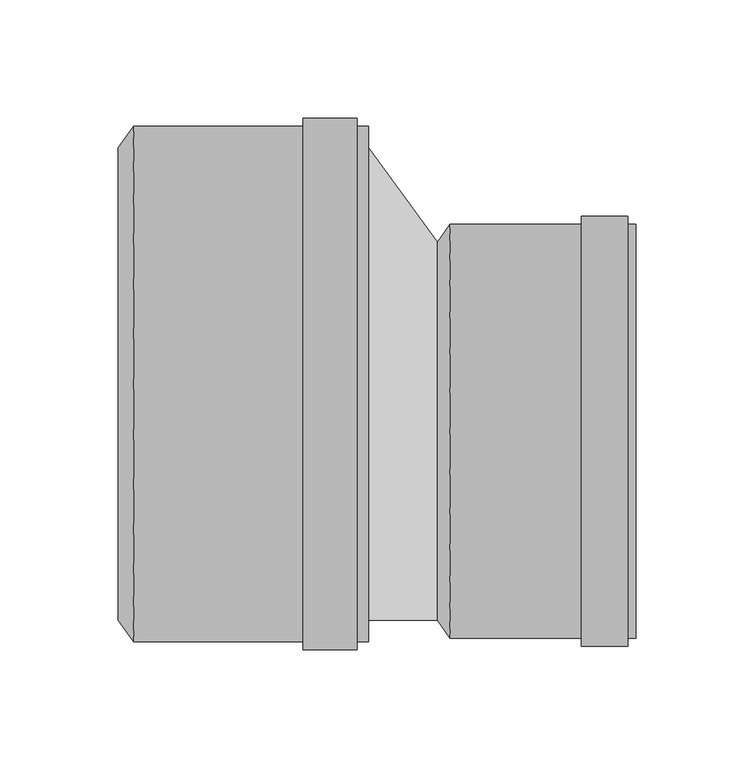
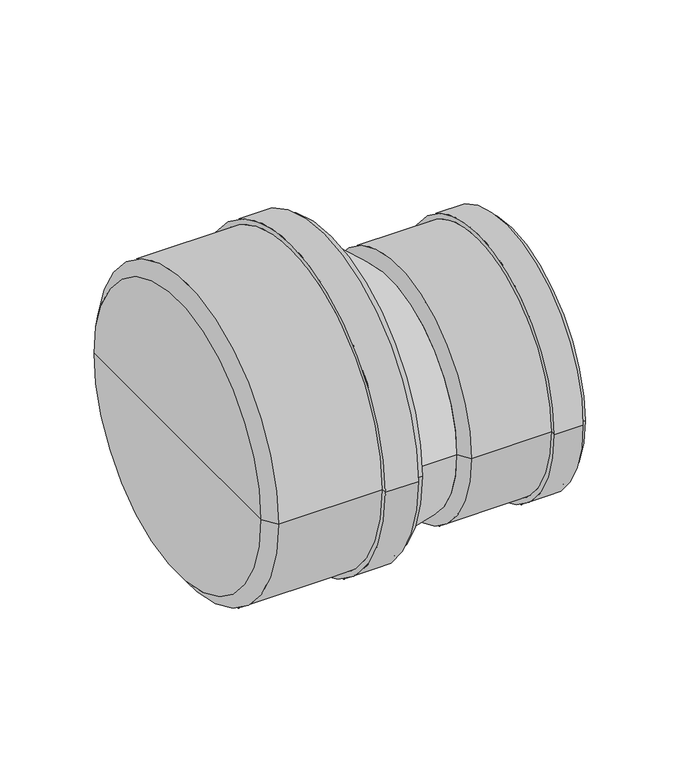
"""IFC4 building model written with IfcOpenShell, lengths in millimetres: pipe fitting geometry, pf_KGR_red-nes : pf_KGR_red-nes."""

from ifc_helpers import new_model, si_unit, frame, origin, place, context, project, spatial, polyline, circle_curve, source, transform, mapped, element, save
from ifc_brep_helpers import plane_surface, cylinder_surface, revolved_surface, spline_surface, advanced_brep


def pipe_fitting_8c594ed1(model_context):
    return source(origin(), model_context, "Body", "AdvancedBrep", [
        advanced_brep(
        [(-106.0, -100.0, 0.0), (-106.0, 100.0, 0.0), (-99.3, 109.1, 0.0), (-99.3, -109.1, 0.0), (-106.0, 0.0, 0.0), (0.0, -109.1, 0.0), (0.0, 109.1, 0.0), (0.0, 100.0, 0.0), (0.0, -100.0, 0.0), (-4.8, -109.1, 0.0), (-4.8, 109.1, 0.0), (-4.8, -112.5, 0.0), (-4.8, 112.5, 0.0), (-27.6, -112.5, 0.0), (-27.6, 112.5, 0.0), (-27.6, -109.1, 0.0), (-27.6, 109.1, 0.0), (-99.3, -100.0, 0.0), (-99.3, 100.0, 0.0), (-99.3, 0.0, 0.0)],
        [
            (0, 1, circle_curve(frame((-106.0, 0.0, 0.0), z_axis=(1.0, 0.0, 0.0), x_axis=(0.0, 1.0, 0.0)), 100.0)),
            (1, 2),
            (2, 3, circle_curve(frame((-99.3, 0.0, 0.0), z_axis=(-1.0, 0.0, 0.0), x_axis=(0.0, 1.0, 0.0)), 109.1)),
            (3, 0),
            (1, 0, circle_curve(frame((-106.0, 0.0, 0.0), z_axis=(1.0, 0.0, 0.0), x_axis=(0.0, 1.0, 0.0)), 100.0)),
            (3, 2, circle_curve(frame((-99.3, 0.0, 0.0), z_axis=(-1.0, 0.0, 0.0), x_axis=(0.0, 1.0, 0.0)), 109.1)),
            (4, 1),
            (0, 4),
            (5, 6, circle_curve(frame((0.0, 0.0, 0.0), z_axis=(1.0, 0.0, 0.0), x_axis=(0.0, 1.0, 0.0)), 109.1)),
            (6, 7),
            (7, 8, circle_curve(frame((0.0, 0.0, 0.0), z_axis=(-1.0, 0.0, 0.0), x_axis=(0.0, 1.0, 0.0)), 100.0)),
            (8, 5),
            (6, 5, circle_curve(frame((0.0, 0.0, 0.0), z_axis=(1.0, 0.0, 0.0), x_axis=(0.0, 1.0, 0.0)), 109.1)),
            (8, 7, circle_curve(frame((0.0, 0.0, 0.0), z_axis=(-1.0, 0.0, 0.0), x_axis=(0.0, 1.0, 0.0)), 100.0)),
            (9, 10, circle_curve(frame((-4.8, 0.0, 0.0), z_axis=(1.0, 0.0, 0.0), x_axis=(0.0, 1.0, 0.0)), 109.1)),
            (10, 6),
            (5, 9),
            (10, 9, circle_curve(frame((-4.8, 0.0, 0.0), z_axis=(1.0, 0.0, 0.0), x_axis=(0.0, 1.0, 0.0)), 109.1)),
            (11, 12, circle_curve(frame((-4.8, 0.0, 0.0), z_axis=(1.0, 0.0, 0.0), x_axis=(0.0, 1.0, 0.0)), 112.5)),
            (12, 10),
            (9, 11),
            (12, 11, circle_curve(frame((-4.8, 0.0, 0.0), z_axis=(1.0, 0.0, 0.0), x_axis=(0.0, 1.0, 0.0)), 112.5)),
            (13, 14, circle_curve(frame((-27.6, 0.0, 0.0), z_axis=(1.0, 0.0, 0.0), x_axis=(0.0, 1.0, 0.0)), 112.5)),
            (14, 12),
            (11, 13),
            (14, 13, circle_curve(frame((-27.6, 0.0, 0.0), z_axis=(1.0, 0.0, 0.0), x_axis=(0.0, 1.0, 0.0)), 112.5)),
            (15, 16, circle_curve(frame((-27.6, 0.0, 0.0), z_axis=(1.0, 0.0, 0.0), x_axis=(0.0, 1.0, 0.0)), 109.1)),
            (16, 14),
            (13, 15),
            (16, 15, circle_curve(frame((-27.6, 0.0, 0.0), z_axis=(1.0, 0.0, 0.0), x_axis=(0.0, 1.0, 0.0)), 109.1)),
            (2, 16),
            (15, 3),
            (17, 18, circle_curve(frame((-99.3, 0.0, 0.0), z_axis=(1.0, 0.0, 0.0), x_axis=(0.0, 1.0, 0.0)), 100.0)),
            (18, 19),
            (19, 17),
            (18, 17, circle_curve(frame((-99.3, 0.0, 0.0), z_axis=(1.0, 0.0, 0.0), x_axis=(0.0, 1.0, 0.0)), 100.0)),
            (7, 18),
            (17, 8),
        ],
        [
            revolved_surface(polyline([(-99.3, 109.1, 0.0), (-106.0, 100.0, 0.0)]), (-106.0, 0.0, 0.0), (-1.0, 0.0, 0.0)),
            plane_surface(frame((-106.0, 0.0, 0.0), z_axis=(-1.0, 0.0, 0.0), x_axis=(0.0, 1.0, 0.0))),
            plane_surface(frame((0.0, 0.0, 0.0), z_axis=(1.0, 0.0, 0.0), x_axis=(0.0, 1.0, 0.0))),
            cylinder_surface(frame((-106.0, 0.0, 0.0), z_axis=(-1.0, 0.0, 0.0), x_axis=(0.0, 1.0, 0.0)), 109.1),
            plane_surface(frame((-4.8, 0.0, 0.0), z_axis=(1.0, 0.0, 0.0), x_axis=(0.0, 1.0, 0.0))),
            cylinder_surface(frame((-106.0, 0.0, 0.0), z_axis=(-1.0, 0.0, 0.0), x_axis=(0.0, 1.0, 0.0)), 112.5),
            plane_surface(frame((-27.6, 0.0, 0.0), z_axis=(-1.0, 0.0, 0.0), x_axis=(0.0, 1.0, 0.0))),
            plane_surface(frame((-99.3, 0.0, 0.0), z_axis=(1.0, 0.0, 0.0), x_axis=(0.0, 1.0, 0.0))),
            revolved_surface(polyline([(-99.3, 100.0, 0.0), (0.0, 100.0, 0.0)]), (-106.0, 0.0, 0.0), (-1.0, 0.0, 0.0)),
        ],
        [
            (0, [[1, 2, 3, 4]]),
            (0, [[5, -4, 6, -2]]),
            (1, [[7, -1, 8]]),
            (1, [[-8, -5, -7]]),
            (2, [[9, 10, 11, 12]]),
            (2, [[13, -12, 14, -10]]),
            (3, [[15, 16, -9, 17]]),
            (3, [[18, -17, -13, -16]]),
            (4, [[19, 20, -15, 21]]),
            (4, [[22, -21, -18, -20]]),
            (5, [[23, 24, -19, 25]]),
            (5, [[26, -25, -22, -24]]),
            (6, [[27, 28, -23, 29]]),
            (6, [[30, -29, -26, -28]]),
            (3, [[-3, 31, -27, 32]]),
            (3, [[-6, -32, -30, -31]]),
            (7, [[33, 34, 35]]),
            (7, [[36, -35, -34]]),
            (8, [[-11, 37, -33, 38]]),
            (8, [[-14, -38, -36, -37]]),
        ],
    ),
        advanced_brep(
        [(29.25, -100.0, 0.0), (29.25, 60.0, 0.0), (34.65, 67.6, 0.0), (34.65, -107.6, 0.0), (29.25, -20.0, 0.0), (113.25, -107.6, 0.0), (113.25, 67.6, 0.0), (113.25, 60.0, 0.0), (113.25, -100.0, 0.0), (109.85, -107.6, 0.0), (109.85, 67.6, 0.0), (109.85, -111.0, 0.0), (109.85, 71.0, 0.0), (90.15, -111.0, 0.0), (90.15, 71.0, 0.0), (90.15, -107.6, 0.0), (90.15, 67.6, 0.0), (34.65, -100.0, 0.0), (34.65, 60.0, 0.0), (34.65, -20.0, 0.0)],
        [
            (0, 1, circle_curve(frame((29.25, -20.0, 0.0), z_axis=(1.0, 0.0, 0.0), x_axis=(0.0, 1.0, 0.0)), 80.0)),
            (1, 2),
            (2, 3, circle_curve(frame((34.65, -20.0, 0.0), z_axis=(-1.0, 0.0, 0.0), x_axis=(0.0, 1.0, 0.0)), 87.6)),
            (3, 0),
            (1, 0, circle_curve(frame((29.25, -20.0, 0.0), z_axis=(1.0, 0.0, 0.0), x_axis=(0.0, 1.0, 0.0)), 80.0)),
            (3, 2, circle_curve(frame((34.65, -20.0, 0.0), z_axis=(-1.0, 0.0, 0.0), x_axis=(0.0, 1.0, 0.0)), 87.6)),
            (4, 1),
            (0, 4),
            (5, 6, circle_curve(frame((113.25, -20.0, 0.0), z_axis=(1.0, 0.0, 0.0), x_axis=(0.0, 1.0, 0.0)), 87.6)),
            (6, 7),
            (7, 8, circle_curve(frame((113.25, -20.0, 0.0), z_axis=(-1.0, 0.0, 0.0), x_axis=(0.0, 1.0, 0.0)), 80.0)),
            (8, 5),
            (6, 5, circle_curve(frame((113.25, -20.0, 0.0), z_axis=(1.0, 0.0, 0.0), x_axis=(0.0, 1.0, 0.0)), 87.6)),
            (8, 7, circle_curve(frame((113.25, -20.0, 0.0), z_axis=(-1.0, 0.0, 0.0), x_axis=(0.0, 1.0, 0.0)), 80.0)),
            (9, 10, circle_curve(frame((109.85, -20.0, 0.0), z_axis=(1.0, 0.0, 0.0), x_axis=(0.0, 1.0, 0.0)), 87.6)),
            (10, 6),
            (5, 9),
            (10, 9, circle_curve(frame((109.85, -20.0, 0.0), z_axis=(1.0, 0.0, 0.0), x_axis=(0.0, 1.0, 0.0)), 87.6)),
            (11, 12, circle_curve(frame((109.85, -20.0, 0.0), z_axis=(1.0, 0.0, 0.0), x_axis=(0.0, 1.0, 0.0)), 91.0)),
            (12, 10),
            (9, 11),
            (12, 11, circle_curve(frame((109.85, -20.0, 0.0), z_axis=(1.0, 0.0, 0.0), x_axis=(0.0, 1.0, 0.0)), 91.0)),
            (13, 14, circle_curve(frame((90.15, -20.0, 0.0), z_axis=(1.0, 0.0, 0.0), x_axis=(0.0, 1.0, 0.0)), 91.0)),
            (14, 12),
            (11, 13),
            (14, 13, circle_curve(frame((90.15, -20.0, 0.0), z_axis=(1.0, 0.0, 0.0), x_axis=(0.0, 1.0, 0.0)), 91.0)),
            (15, 16, circle_curve(frame((90.15, -20.0, 0.0), z_axis=(1.0, 0.0, 0.0), x_axis=(0.0, 1.0, 0.0)), 87.6)),
            (16, 14),
            (13, 15),
            (16, 15, circle_curve(frame((90.15, -20.0, 0.0), z_axis=(1.0, 0.0, 0.0), x_axis=(0.0, 1.0, 0.0)), 87.6)),
            (2, 16),
            (15, 3),
            (17, 18, circle_curve(frame((34.65, -20.0, 0.0), z_axis=(1.0, 0.0, 0.0), x_axis=(0.0, 1.0, 0.0)), 80.0)),
            (18, 19),
            (19, 17),
            (18, 17, circle_curve(frame((34.65, -20.0, 0.0), z_axis=(1.0, 0.0, 0.0), x_axis=(0.0, 1.0, 0.0)), 80.0)),
            (7, 18),
            (17, 8),
        ],
        [
            revolved_surface(polyline([(34.65, 67.6, 0.0), (29.25, 60.0, 0.0)]), (29.25, -20.0, 0.0), (-1.0, 0.0, 0.0)),
            plane_surface(frame((29.25, -20.0, 0.0), z_axis=(-1.0, 0.0, 0.0), x_axis=(0.0, 1.0, 0.0))),
            plane_surface(frame((113.25, -20.0, 0.0), z_axis=(1.0, 0.0, 0.0), x_axis=(0.0, 1.0, 0.0))),
            cylinder_surface(frame((29.25, -20.0, 0.0), z_axis=(-1.0, 0.0, 0.0), x_axis=(0.0, 1.0, 0.0)), 87.6),
            plane_surface(frame((109.85, -20.0, 0.0), z_axis=(1.0, 0.0, 0.0), x_axis=(0.0, 1.0, 0.0))),
            cylinder_surface(frame((29.25, -20.0, 0.0), z_axis=(-1.0, 0.0, 0.0), x_axis=(0.0, 1.0, 0.0)), 91.0),
            plane_surface(frame((90.15, -20.0, 0.0), z_axis=(-1.0, 0.0, 0.0), x_axis=(0.0, 1.0, 0.0))),
            plane_surface(frame((34.65, -20.0, 0.0), z_axis=(1.0, 0.0, 0.0), x_axis=(0.0, 1.0, 0.0))),
            revolved_surface(polyline([(34.65, 60.0, 0.0), (113.25, 60.0, 0.0)]), (29.25, -20.0, 0.0), (-1.0, 0.0, 0.0)),
        ],
        [
            (0, [[1, 2, 3, 4]]),
            (0, [[5, -4, 6, -2]]),
            (1, [[7, -1, 8]]),
            (1, [[-8, -5, -7]]),
            (2, [[9, 10, 11, 12]]),
            (2, [[13, -12, 14, -10]]),
            (3, [[15, 16, -9, 17]]),
            (3, [[18, -17, -13, -16]]),
            (4, [[19, 20, -15, 21]]),
            (4, [[22, -21, -18, -20]]),
            (5, [[23, 24, -19, 25]]),
            (5, [[26, -25, -22, -24]]),
            (6, [[27, 28, -23, 29]]),
            (6, [[30, -29, -26, -28]]),
            (3, [[-3, 31, -27, 32]]),
            (3, [[-6, -32, -30, -31]]),
            (7, [[33, 34, 35]]),
            (7, [[36, -35, -34]]),
            (8, [[-11, 37, -33, 38]]),
            (8, [[-14, -38, -36, -37]]),
        ],
    ),
        advanced_brep(
        [(29.25, -100.0, 0.0), (29.25, 60.0, 0.0), (0.0, -100.0, 0.0), (0.0, 100.0, 0.0)],
        [
            (0, 1, circle_curve(frame((29.25, -20.0, 0.0), z_axis=(1.0, 0.0, 0.0), x_axis=(0.0, 1.0, 0.0)), 80.0)),
            (1, 0, circle_curve(frame((29.25, -20.0, 0.0), z_axis=(1.0, 0.0, 0.0), x_axis=(0.0, 1.0, 0.0)), 80.0)),
            (2, 3, circle_curve(frame((0.0, 0.0, 0.0), z_axis=(-1.0, 0.0, 0.0), x_axis=(0.0, 1.0, 0.0)), 100.0)),
            (3, 2, circle_curve(frame((0.0, 0.0, 0.0), z_axis=(-1.0, 0.0, 0.0), x_axis=(0.0, 1.0, 0.0)), 100.0)),
            (3, 1),
            (0, 2),
        ],
        [
            plane_surface(frame((29.25, -20.0, 0.0), z_axis=(1.0, 0.0, 0.0), x_axis=(0.0, 0.0, -1.0))),
            plane_surface(frame((0.0, 0.0, 0.0), z_axis=(-1.0, 0.0, 0.0), x_axis=(0.0, 0.0, -1.0))),
            spline_surface(2, 1, [[(0.0, -100.0, 0.0), (29.25, -100.0, 0.0)], [(0.0, -100.0, -100.0), (29.25, -100.0, -80.0)], [(0.0, 0.0, -100.0), (29.25, -20.0, -80.0)], [(0.0, 100.0, -100.0), (29.25, 60.0, -80.0)], [(0.0, 100.0, 0.0), (29.25, 60.0, 0.0)]], [3, 2, 3], [2, 2], [0.0, 1.0, 2.0], [0.0, 1.0], weights=[[1.0, 1.0], [0.7071067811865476, 0.7071067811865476], [1.0, 1.0], [0.7071067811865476, 0.7071067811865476], [1.0, 1.0]]),
            spline_surface(2, 1, [[(0.0, 100.0, 0.0), (29.25, 60.0, 0.0)], [(0.0, 100.0, 100.0), (29.25, 60.0, 80.0)], [(0.0, 0.0, 100.0), (29.25, -20.0, 80.0)], [(0.0, -100.0, 100.0), (29.25, -100.0, 80.0)], [(0.0, -100.0, 0.0), (29.25, -100.0, 0.0)]], [3, 2, 3], [2, 2], [0.0, 1.0, 2.0], [0.0, 1.0], weights=[[1.0, 1.0], [0.7071067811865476, 0.7071067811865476], [1.0, 1.0], [0.7071067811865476, 0.7071067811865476], [1.0, 1.0]]),
        ],
        [
            (0, [[1, 2]]),
            (1, [[3, 4]]),
            (2, [[-4, 5, -1, 6]]),
            (3, [[-3, -6, -2, -5]]),
        ],
    ),
    ])


if __name__ == "__main__":
    model = new_model("IFC4")
    model_context = context("Model", 3, world=origin())
    ifc_project = project(units=[si_unit("LENGTHUNIT", "METRE", prefix="MILLI")], contexts=[model_context])
    site = spatial("IfcSite", under=ifc_project)
    building = spatial("IfcBuilding", under=site)
    placement = place(None, origin())
    pipe_fitting_shape = pipe_fitting_8c594ed1(model_context)
    element("IfcPipeFitting", 1, ObjectType="pf_KGR_red-nes : pf_KGR_red-nes", at=placement, inside=building, context=model_context, shape_type="MappedRepresentation", body=[
        mapped(pipe_fitting_shape, transform((0.0, 0.0, 0.0), x_axis=(1.0, 0.0, 0.0), y_axis=(0.0, 1.0, 0.0), z_axis=(0.0, 0.0, 1.0))),
    ])
    save(model, "model.ifc")
